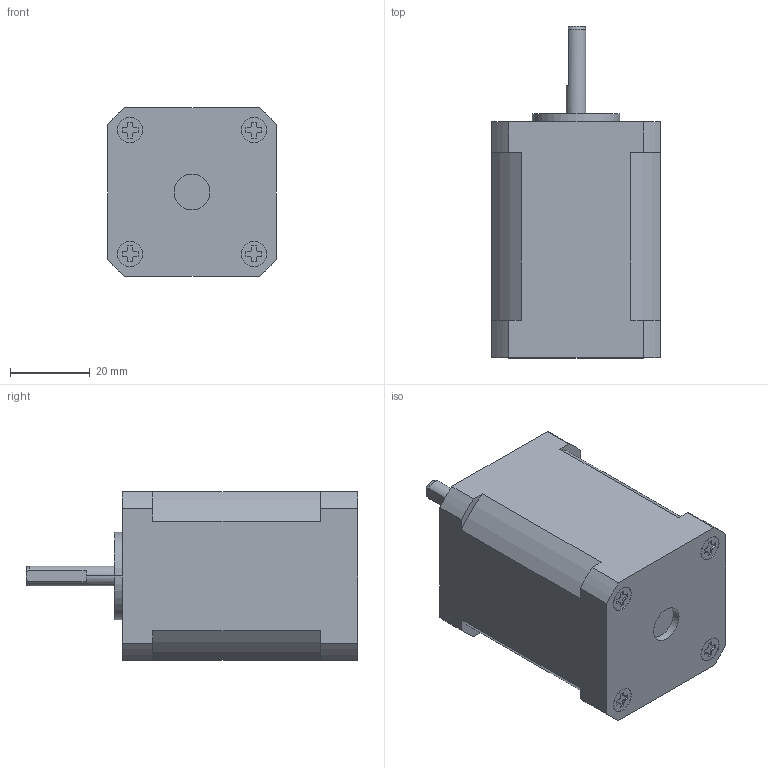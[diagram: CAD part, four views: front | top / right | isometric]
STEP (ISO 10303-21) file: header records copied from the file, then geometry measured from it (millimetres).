
FILE_DESCRIPTION((''),'2;1');
FILE_NAME('42H059HT-1805-001','2025-07-07T17:53:50',('CZ28555'),(''),'CREO PARAMETRIC BY PTC INC, 2018100','CREO PARAMETRIC BY PTC INC, 2018100','');
FILE_SCHEMA(('CONFIG_CONTROL_DESIGN'));
Length unit declared in the file: millimetre
Products named in the file (1): 42H059HT-1805-001
Bounding box: 42.2 x 83 x 42.2 mm (x, y, z)
Volume: 100797.4 mm3; surface area: 13813.1 mm2
Topology: 1 solids, 5 shells, 152 faces, 399 edges, 262 vertices
Faces by surface type: plane 81, cylinder 62, cone 9
Entity records: 4703 total; most frequent: DIRECTION 830, CARTESIAN_POINT 816, ORIENTED_EDGE 766, EDGE_CURVE 391, AXIS2_PLACEMENT_3D 288, VERTEX_POINT 262, VECTOR 254, LINE 254
